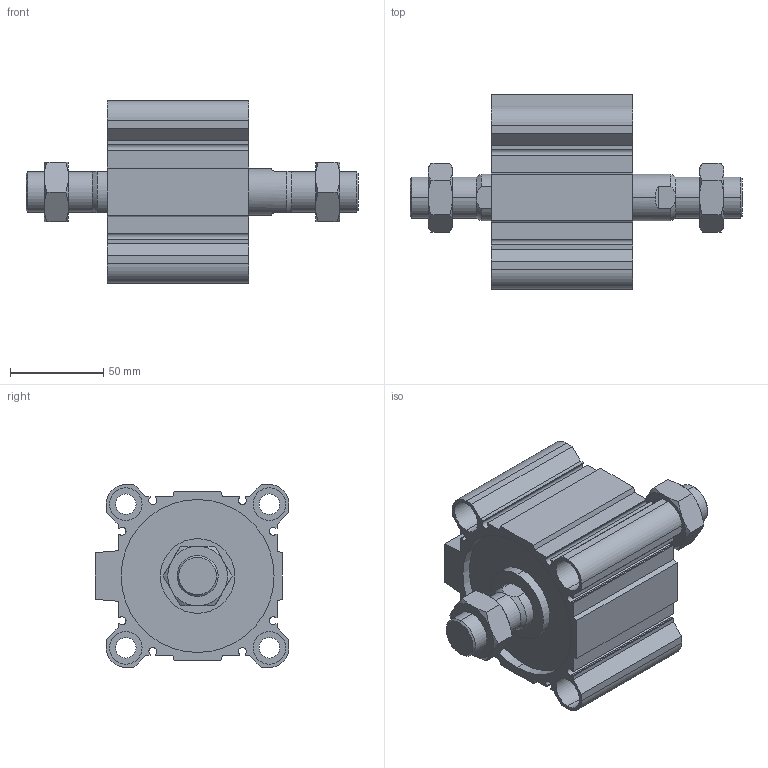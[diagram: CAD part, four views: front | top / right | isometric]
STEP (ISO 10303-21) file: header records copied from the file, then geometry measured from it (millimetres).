
FILE_DESCRIPTION (( 'STEP AP203' ), '1' );
FILE_NAME ('CCMB80-15M-P.STEP', '2020-08-10T11:53:03', ( '' ), ( '' ), 'SwSTEP 2.0', 'SolidWorks 2019', '' );
FILE_SCHEMA (( 'CONFIG_CONTROL_DESIGN' ));
Length unit declared in the file: millimetre
Products named in the file (1): CCMB80-15M-P
Bounding box: 178 x 104 x 98 mm (x, y, z)
Volume: 534288.1 mm3; surface area: 131584.9 mm2
Topology: 4 solids, 4 shells, 228 faces, 558 edges, 356 vertices
Faces by surface type: plane 106, cylinder 78, cone 44
Entity records: 7569 total; most frequent: CARTESIAN_POINT 2055, DIRECTION 1148, ORIENTED_EDGE 1116, EDGE_CURVE 558, AXIS2_PLACEMENT_3D 425, VERTEX_POINT 356, LINE 298, VECTOR 298
